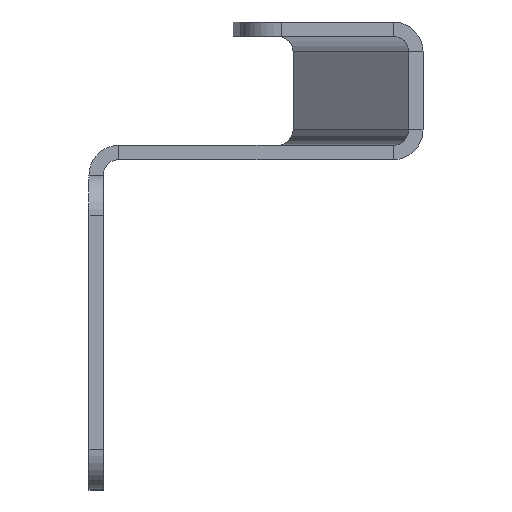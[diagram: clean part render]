
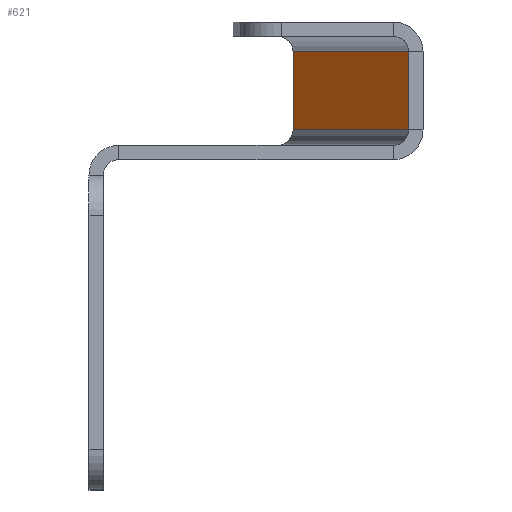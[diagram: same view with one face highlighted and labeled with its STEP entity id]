
A CAD part, left-side view. The second image highlights one B-rep face of the part: STEP entity #621.
In plain terms, the highlighted planar face has unit normal (-0.01, 1, 0).
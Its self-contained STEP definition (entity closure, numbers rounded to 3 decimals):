
#93 = LINE ( 'NONE', #312, #353 ) ;
#155 = VECTOR ( 'NONE', #971, 1000. ) ;
#236 = LINE ( 'NONE', #837, #1482 ) ;
#247 = ORIENTED_EDGE ( 'NONE', *, *, #1288, .F. ) ;
#252 = FACE_OUTER_BOUND ( 'NONE', #1146, .T. ) ;
#254 = VERTEX_POINT ( 'NONE', #1204 ) ;
#312 = CARTESIAN_POINT ( 'NONE',  ( -579.309, -31.49, 0. ) ) ;
#324 = ORIENTED_EDGE ( 'NONE', *, *, #1459, .F. ) ;
#342 = EDGE_CURVE ( 'NONE', #702, #978, #236, .T. ) ;
#353 = VECTOR ( 'NONE', #1115, 1000. ) ;
#495 = DIRECTION ( 'NONE',  ( 0., 0., -1. ) ) ;
#563 = CARTESIAN_POINT ( 'NONE',  ( 0.254, -25.792, 0. ) ) ;
#621 = ADVANCED_FACE ( 'NONE', ( #252 ), #680, .T. ) ;
#660 = CARTESIAN_POINT ( 'NONE',  ( -579.309, -31.49, 14.125 ) ) ;
#679 = VECTOR ( 'NONE', #814, 1000. ) ;
#680 = PLANE ( 'NONE',  #926 ) ;
#697 = CARTESIAN_POINT ( 'NONE',  ( 589.481, -20., 21.837 ) ) ;
#702 = VERTEX_POINT ( 'NONE', #1364 ) ;
#712 = LINE ( 'NONE', #697, #679 ) ;
#776 = LINE ( 'NONE', #850, #155 ) ;
#798 = DIRECTION ( 'NONE',  ( -1., -0.01, 0. ) ) ;
#814 = DIRECTION ( 'NONE',  ( -1., -0.01, 0. ) ) ;
#821 = EDGE_CURVE ( 'NONE', #922, #978, #776, .T. ) ;
#837 = CARTESIAN_POINT ( 'NONE',  ( 579.295, -20.1, 0. ) ) ;
#850 = CARTESIAN_POINT ( 'NONE',  ( -589.509, -31.59, 14.125 ) ) ;
#922 = VERTEX_POINT ( 'NONE', #660 ) ;
#926 = AXIS2_PLACEMENT_3D ( 'NONE', #563, #1022, #798 ) ;
#971 = DIRECTION ( 'NONE',  ( 1., 0.01, 0. ) ) ;
#978 = VERTEX_POINT ( 'NONE', #1443 ) ;
#999 = ORIENTED_EDGE ( 'NONE', *, *, #342, .T. ) ;
#1022 = DIRECTION ( 'NONE',  ( -0.01, 1., 0. ) ) ;
#1115 = DIRECTION ( 'NONE',  ( 0., 0., -1. ) ) ;
#1146 = EDGE_LOOP ( 'NONE', ( #324, #999, #1385, #247 ) ) ;
#1204 = CARTESIAN_POINT ( 'NONE',  ( -579.309, -31.49, 21.837 ) ) ;
#1288 = EDGE_CURVE ( 'NONE', #254, #922, #93, .T. ) ;
#1364 = CARTESIAN_POINT ( 'NONE',  ( 579.295, -20.1, 21.837 ) ) ;
#1385 = ORIENTED_EDGE ( 'NONE', *, *, #821, .F. ) ;
#1443 = CARTESIAN_POINT ( 'NONE',  ( 579.295, -20.1, 14.125 ) ) ;
#1459 = EDGE_CURVE ( 'NONE', #702, #254, #712, .T. ) ;
#1482 = VECTOR ( 'NONE', #495, 1000. ) ;
